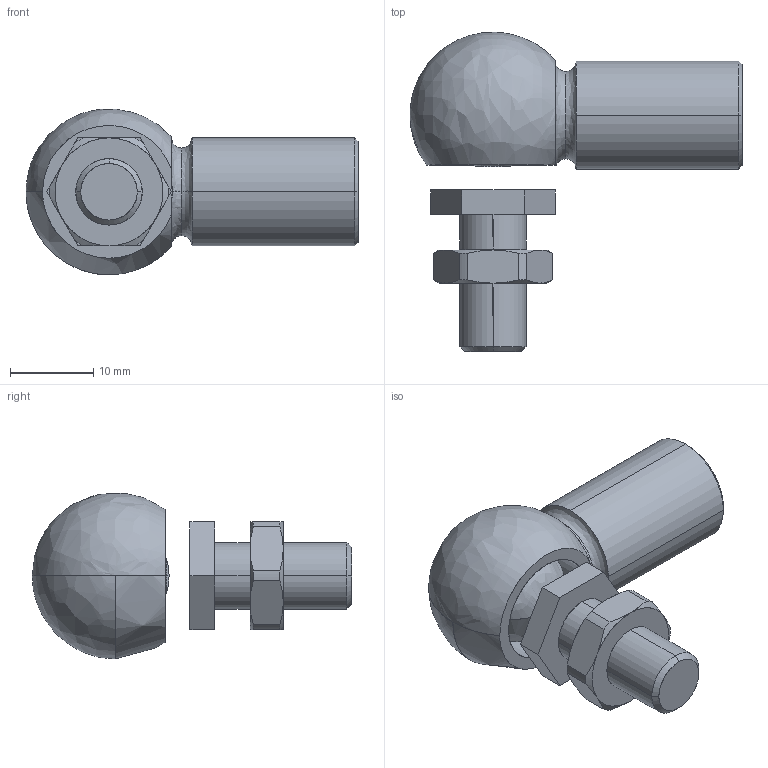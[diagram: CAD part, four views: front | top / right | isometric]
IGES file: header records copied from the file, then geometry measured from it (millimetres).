
Start section: SolidWorks IGES file using analytic representation for surfaces
Bounding box: 40 x 38.5 x 19.96 mm (x, y, z)
Surface area: 3903.2 mm2 (no closed solid volume)
Topology: 0 solids, 0 shells, 87 faces, 939 edges, 930 vertices
Faces by surface type: revolution 57, bspline 30
